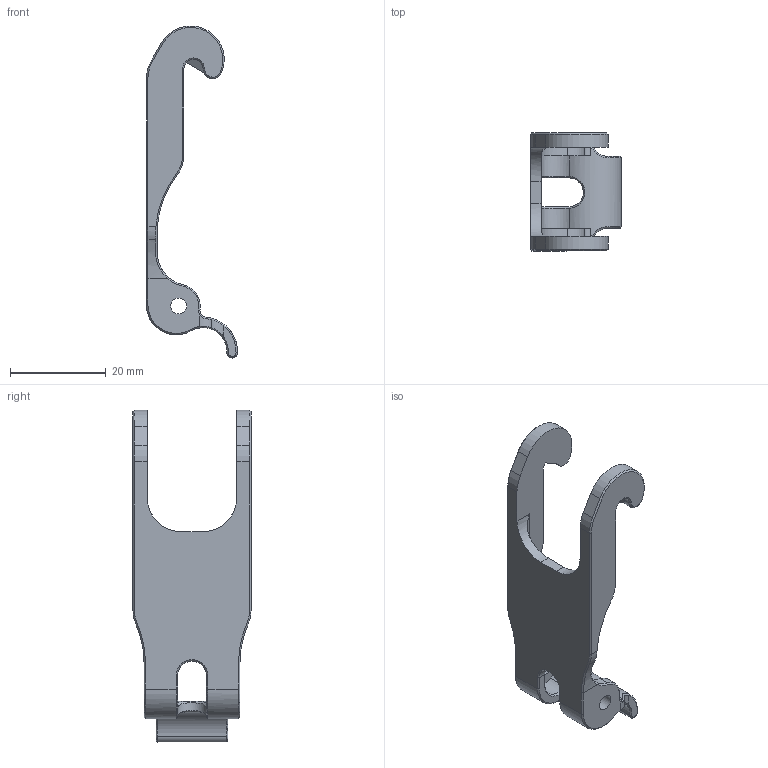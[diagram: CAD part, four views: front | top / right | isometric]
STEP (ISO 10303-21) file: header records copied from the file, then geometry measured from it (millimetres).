
FILE_DESCRIPTION(/* description */ (''),/* implementation_level */ '2;1');
FILE_NAME(/* name */ '/Users/jakeallen/Dropbox/3D Printer Fan Duct Designs/1.) Artillery Sidewinder X1/3D Models/5015 Double Ducts/VOLCANO/Volcano ALL Step Files/Fan Clip (Print 2x).step',/* time_stamp */ '2021-03-05T21:08:40-05:00',/* author */ (''),/* organization */ (''),/* preprocessor_version */ 'ST-DEVELOPER v18.1',/* originating_system */ 'Autodesk Translation Framework v9.10.0.1330',/* authorisation */ '');
FILE_SCHEMA (('AUTOMOTIVE_DESIGN { 1 0 10303 214 3 1 1 }'));
Length unit declared in the file: millimetre
Products named in the file (1): Fan Clip
Bounding box: 18.96 x 24.6 x 69.2 mm (x, y, z)
Volume: 4469.4 mm3; surface area: 4396.5 mm2
Topology: 1 solids, 1 shells, 138 faces, 368 edges, 230 vertices
Faces by surface type: cylinder 41, plane 35, bspline 34, cone 28
Full cylindrical faces by diameter (mm): 3.3 x2
Entity records: 8310 total; most frequent: CARTESIAN_POINT 5062, ORIENTED_EDGE 736, DIRECTION 573, EDGE_CURVE 368, VERTEX_POINT 230, AXIS2_PLACEMENT_3D 204, LINE 165, VECTOR 165
